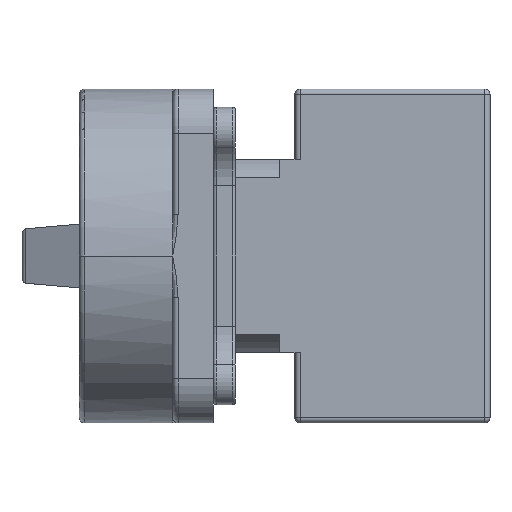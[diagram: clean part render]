
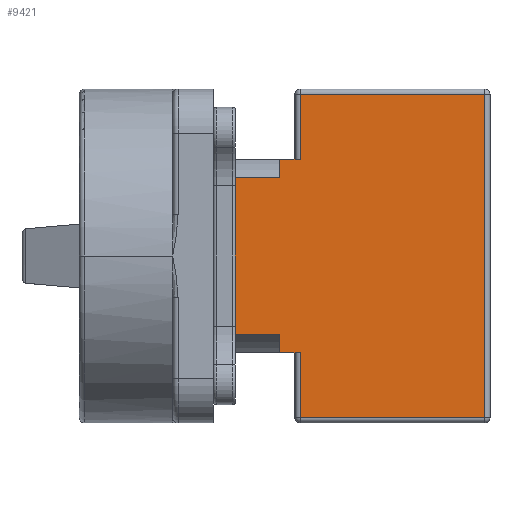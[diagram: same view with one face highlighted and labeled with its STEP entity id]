
A CAD part, left-side view. The second image highlights one B-rep face of the part: STEP entity #9421.
In plain terms, the highlighted planar face has unit normal (-1, 0, 0).
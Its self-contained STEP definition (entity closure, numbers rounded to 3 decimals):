
#42 = CARTESIAN_POINT ( 'NONE',  ( -24., 36.4, -18.5 ) ) ;
#181 = CARTESIAN_POINT ( 'NONE',  ( -24., 40.3, 15. ) ) ;
#254 = CARTESIAN_POINT ( 'NONE',  ( -24., 48.8, -18.5 ) ) ;
#402 = CARTESIAN_POINT ( 'NONE',  ( -24., 40.3, -15. ) ) ;
#413 = CARTESIAN_POINT ( 'NONE',  ( -24., 37.4, -18.5 ) ) ;
#507 = ORIENTED_EDGE ( 'NONE', *, *, #2894, .F. ) ;
#928 = VECTOR ( 'NONE', #1055, 1000. ) ;
#1055 = DIRECTION ( 'NONE',  ( 0., 0., 1. ) ) ;
#1254 = CARTESIAN_POINT ( 'NONE',  ( -24., 48.8, 18.5 ) ) ;
#1450 = CARTESIAN_POINT ( 'NONE',  ( -24., 40.3, -18.5 ) ) ;
#1456 = ORIENTED_EDGE ( 'NONE', *, *, #3537, .F. ) ;
#1457 = ORIENTED_EDGE ( 'NONE', *, *, #7474, .T. ) ;
#1478 = ORIENTED_EDGE ( 'NONE', *, *, #4162, .F. ) ;
#1509 = VECTOR ( 'NONE', #9930, 1000. ) ;
#1575 = VERTEX_POINT ( 'NONE', #1862 ) ;
#1743 = ORIENTED_EDGE ( 'NONE', *, *, #9972, .F. ) ;
#1833 = DIRECTION ( 'NONE',  ( 0., -1., 0. ) ) ;
#1862 = CARTESIAN_POINT ( 'NONE',  ( -24., 36.4, 31. ) ) ;
#2115 = PLANE ( 'NONE',  #5928 ) ;
#2198 = DIRECTION ( 'NONE',  ( 0., 1., 0. ) ) ;
#2435 = VECTOR ( 'NONE', #7706, 1000. ) ;
#2437 = VECTOR ( 'NONE', #9432, 1000. ) ;
#2475 = EDGE_CURVE ( 'NONE', #4370, #7192, #5926, .T. ) ;
#2495 = CARTESIAN_POINT ( 'NONE',  ( -24., 40.3, 18.5 ) ) ;
#2640 = CARTESIAN_POINT ( 'NONE',  ( -24., 36.4, -31. ) ) ;
#2894 = EDGE_CURVE ( 'NONE', #6778, #5958, #3507, .T. ) ;
#2946 = LINE ( 'NONE', #1254, #2435 ) ;
#3205 = FACE_OUTER_BOUND ( 'NONE', #6310, .T. ) ;
#3214 = ORIENTED_EDGE ( 'NONE', *, *, #5509, .T. ) ;
#3471 = VERTEX_POINT ( 'NONE', #181 ) ;
#3507 = LINE ( 'NONE', #8324, #1509 ) ;
#3537 = EDGE_CURVE ( 'NONE', #5958, #5607, #5685, .T. ) ;
#3592 = ORIENTED_EDGE ( 'NONE', *, *, #9940, .T. ) ;
#3703 = DIRECTION ( 'NONE',  ( 0., 0., 1. ) ) ;
#3715 = VERTEX_POINT ( 'NONE', #10149 ) ;
#3735 = DIRECTION ( 'NONE',  ( 1., 0., 0. ) ) ;
#3892 = CARTESIAN_POINT ( 'NONE',  ( -24., 36.4, 0. ) ) ;
#3952 = DIRECTION ( 'NONE',  ( 0., 0., 1. ) ) ;
#4116 = CARTESIAN_POINT ( 'NONE',  ( -24., 40.3, -15. ) ) ;
#4162 = EDGE_CURVE ( 'NONE', #7192, #6778, #6581, .T. ) ;
#4289 = VERTEX_POINT ( 'NONE', #9476 ) ;
#4370 = VERTEX_POINT ( 'NONE', #42 ) ;
#4429 = DIRECTION ( 'NONE',  ( 0., 1., 0. ) ) ;
#4605 = VECTOR ( 'NONE', #3952, 1000. ) ;
#4787 = EDGE_CURVE ( 'NONE', #4370, #8556, #8622, .T. ) ;
#4824 = EDGE_CURVE ( 'NONE', #3471, #5607, #7844, .T. ) ;
#5084 = LINE ( 'NONE', #3892, #10246 ) ;
#5272 = ORIENTED_EDGE ( 'NONE', *, *, #4824, .T. ) ;
#5501 = LINE ( 'NONE', #9107, #9288 ) ;
#5509 = EDGE_CURVE ( 'NONE', #1575, #4289, #5084, .T. ) ;
#5524 = DIRECTION ( 'NONE',  ( 0., 0., 1. ) ) ;
#5565 = EDGE_CURVE ( 'NONE', #3471, #8438, #5846, .T. ) ;
#5567 = ORIENTED_EDGE ( 'NONE', *, *, #4787, .T. ) ;
#5607 = VERTEX_POINT ( 'NONE', #8045 ) ;
#5685 = LINE ( 'NONE', #254, #928 ) ;
#5846 = LINE ( 'NONE', #7968, #4605 ) ;
#5926 = LINE ( 'NONE', #413, #6668 ) ;
#5928 = AXIS2_PLACEMENT_3D ( 'NONE', #7744, #3735, #9368 ) ;
#5957 = VECTOR ( 'NONE', #2198, 1000. ) ;
#5958 = VERTEX_POINT ( 'NONE', #7651 ) ;
#5988 = LINE ( 'NONE', #10335, #6231 ) ;
#6231 = VECTOR ( 'NONE', #5524, 1000. ) ;
#6310 = EDGE_LOOP ( 'NONE', ( #9333, #5567, #1457, #9817, #3592, #3214, #1743, #9848, #5272, #1456, #507, #1478 ) ) ;
#6581 = LINE ( 'NONE', #402, #7461 ) ;
#6668 = VECTOR ( 'NONE', #4429, 1000. ) ;
#6778 = VERTEX_POINT ( 'NONE', #4116 ) ;
#6990 = VECTOR ( 'NONE', #8453, 1000. ) ;
#7192 = VERTEX_POINT ( 'NONE', #1450 ) ;
#7461 = VECTOR ( 'NONE', #3703, 1000. ) ;
#7474 = EDGE_CURVE ( 'NONE', #8556, #9460, #5501, .T. ) ;
#7651 = CARTESIAN_POINT ( 'NONE',  ( -24., 48.8, -15. ) ) ;
#7706 = DIRECTION ( 'NONE',  ( 0., -1., 0. ) ) ;
#7744 = CARTESIAN_POINT ( 'NONE',  ( -24., 0., 0. ) ) ;
#7811 = CARTESIAN_POINT ( 'NONE',  ( -24., 36.4, 0. ) ) ;
#7844 = LINE ( 'NONE', #8658, #5957 ) ;
#7903 = DIRECTION ( 'NONE',  ( 0., 0., -1. ) ) ;
#7968 = CARTESIAN_POINT ( 'NONE',  ( -24., 40.3, 15. ) ) ;
#8045 = CARTESIAN_POINT ( 'NONE',  ( -24., 48.8, 15. ) ) ;
#8324 = CARTESIAN_POINT ( 'NONE',  ( -24., 40.3, -15. ) ) ;
#8438 = VERTEX_POINT ( 'NONE', #2495 ) ;
#8453 = DIRECTION ( 'NONE',  ( 0., 1., 0. ) ) ;
#8556 = VERTEX_POINT ( 'NONE', #2640 ) ;
#8622 = LINE ( 'NONE', #7811, #2437 ) ;
#8658 = CARTESIAN_POINT ( 'NONE',  ( -24., 40.3, 15. ) ) ;
#9107 = CARTESIAN_POINT ( 'NONE',  ( -24., 0., -31. ) ) ;
#9134 = LINE ( 'NONE', #10053, #6990 ) ;
#9288 = VECTOR ( 'NONE', #1833, 1000. ) ;
#9333 = ORIENTED_EDGE ( 'NONE', *, *, #2475, .F. ) ;
#9368 = DIRECTION ( 'NONE',  ( 0., 0., -1. ) ) ;
#9421 = ADVANCED_FACE ( 'NONE', ( #3205 ), #2115, .F. ) ;
#9432 = DIRECTION ( 'NONE',  ( 0., 0., -1. ) ) ;
#9460 = VERTEX_POINT ( 'NONE', #10199 ) ;
#9476 = CARTESIAN_POINT ( 'NONE',  ( -24., 36.4, 18.5 ) ) ;
#9570 = EDGE_CURVE ( 'NONE', #9460, #3715, #5988, .T. ) ;
#9817 = ORIENTED_EDGE ( 'NONE', *, *, #9570, .T. ) ;
#9848 = ORIENTED_EDGE ( 'NONE', *, *, #5565, .F. ) ;
#9930 = DIRECTION ( 'NONE',  ( 0., 1., 0. ) ) ;
#9940 = EDGE_CURVE ( 'NONE', #3715, #1575, #9134, .T. ) ;
#9972 = EDGE_CURVE ( 'NONE', #8438, #4289, #2946, .T. ) ;
#10053 = CARTESIAN_POINT ( 'NONE',  ( -24., 0., 31. ) ) ;
#10149 = CARTESIAN_POINT ( 'NONE',  ( -24., 1., 31. ) ) ;
#10199 = CARTESIAN_POINT ( 'NONE',  ( -24., 1., -31. ) ) ;
#10246 = VECTOR ( 'NONE', #7903, 1000. ) ;
#10335 = CARTESIAN_POINT ( 'NONE',  ( -24., 1., 0. ) ) ;
